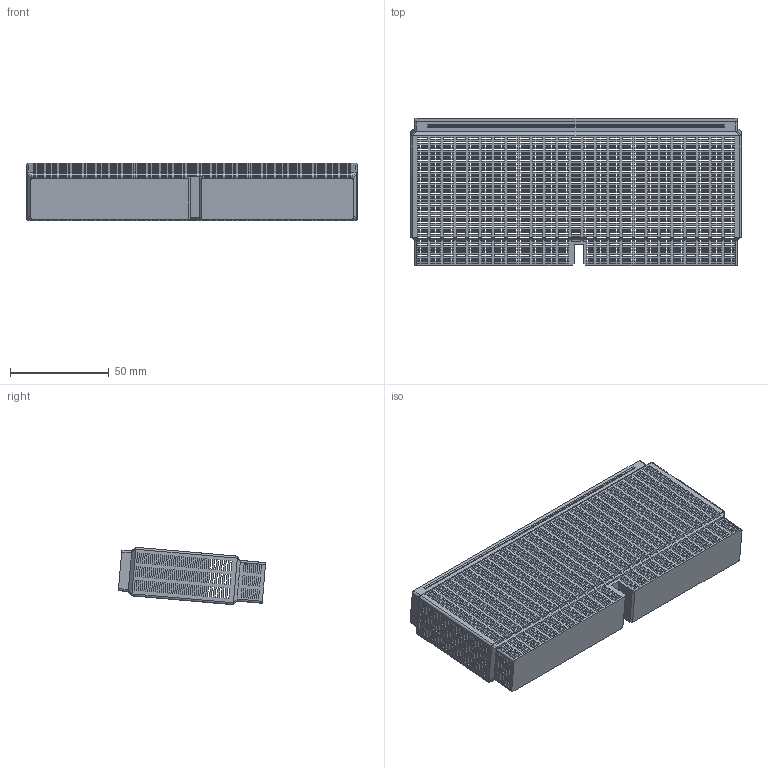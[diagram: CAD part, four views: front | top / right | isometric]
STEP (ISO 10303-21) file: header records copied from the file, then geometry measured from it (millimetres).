
FILE_DESCRIPTION(/* description */ (''),/* implementation_level */ '2;1');
FILE_NAME(/* name */ 'BOX.step',/* time_stamp */ '2025-12-16T12:00:34+09:00',/* author */ (''),/* organization */ (''),/* preprocessor_version */ 'ST-DEVELOPER v20.1',/* originating_system */ 'Autodesk Translation Framework v14.21.0.0',/* authorisation */ '');
FILE_SCHEMA (('AUTOMOTIVE_DESIGN { 1 0 10303 214 3 1 1 }'));
Products named in the file (1): BOX
Bounding box: 167 x 74.51 x 29.02 mm (x, y, z)
Volume: 32451.1 mm3; surface area: 80145.9 mm2
Topology: 1 solids, 1 shells, 7754 faces, 24553 edges, 16358 vertices
Faces by surface type: plane 7734, cylinder 20
Entity records: 273502 total; most frequent: ORIENTED_EDGE 49106, CARTESIAN_POINT 48666, DIRECTION 40115, EDGE_CURVE 24553, LINE 24501, VECTOR 24501, VERTEX_POINT 16358, EDGE_LOOP 11149
